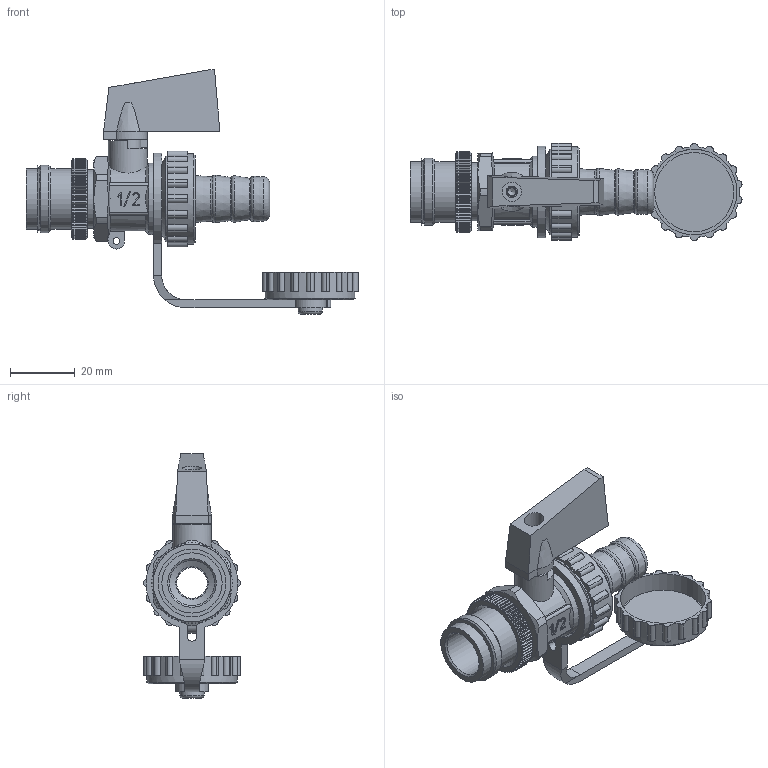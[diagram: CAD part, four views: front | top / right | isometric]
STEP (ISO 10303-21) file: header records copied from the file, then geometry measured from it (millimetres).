
FILE_DESCRIPTION(('Bauteilbeschreibung','HiCAD-Model','HiCAD-STEP-TRANSLATION','Bauteilbeschreibung'),'2;1');
FILE_NAME('Z:/DATENBLAETTER-OEM/STEP-DATEIEN_AFRISO-ARTIKEL/42401_KFE-HAHN.STP','2009-03-22T11:45:54+00:00',('Konstrukteur'),('Konstrukteur Firma GmbH'),' HiCAD neXt 2008, Step 3.1.1401.2D ','HiCAD neXt 2008','confidential');
FILE_SCHEMA(('AUTOMOTIVE_DESIGN { 1 2 10303 214 0 1 1 1 }'));
Length unit declared in the file: millimetre
Products named in the file (13): A2401_KFE_HAHN; KFE_HAHN G1_2 PTFE; SPINDEL; GEWINDEDICHTRING G1_2; GEWINDERING G1_2; GRIFF; T_LLE; MUTTER G3_4; GEH_USE; HALTELASCHE; DECKEL G3_4; DECKEL0G304; FLACHDICHTUNG
Assembly tree (12 placements, depth 4):
  A2401_KFE_HAHN
    KFE_HAHN G1_2 PTFE
      SPINDEL
      GEWINDEDICHTRING G1_2
      GEWINDERING G1_2
      GRIFF
      T_LLE
      MUTTER G3_4
      GEH_USE
      HALTELASCHE
      DECKEL G3_4
      DECKEL0G304
        FLACHDICHTUNG
Bounding box: 102.76 x 30 x 75.68 mm (x, y, z)
Volume: 19149 mm3; surface area: 24672.9 mm2
Topology: 10 solids, 10 shells, 816 faces, 1975 edges, 1204 vertices
Faces by surface type: plane 324, cylinder 285, cone 184, torus 22, sphere 1
Full cylindrical faces by diameter (mm): 2 x1, 2.46 x1, 3.5 x1, 5.5 x1, 5.7 x1, 6 x2, 7.5 x1, 8 x4, 9 x1, 9.5 x2, 10 x1, 12 x1, 14 x1, 15 x1, 16.5 x1, 17.5 x1, 17.6 x2, 17.8 x2, 18 x1, 18.6 x1, 18.631 x2, 20.5 x1, 20.8 x1, 22 x1, 24.117 x2, 24.5 x1, 26.44 x1, 26.441 x2, 28 x2
Entity records: 33121 total; most frequent: CARTESIAN_POINT 5389, DIRECTION 4032, ORIENTED_EDGE 3714, EDGE_CURVE 1857, COLOUR_RGB 1850, PRESENTATION_STYLE_ASSIGNMENT 1850, OVER_RIDING_STYLED_ITEM 1840, CURVE_STYLE 1833
